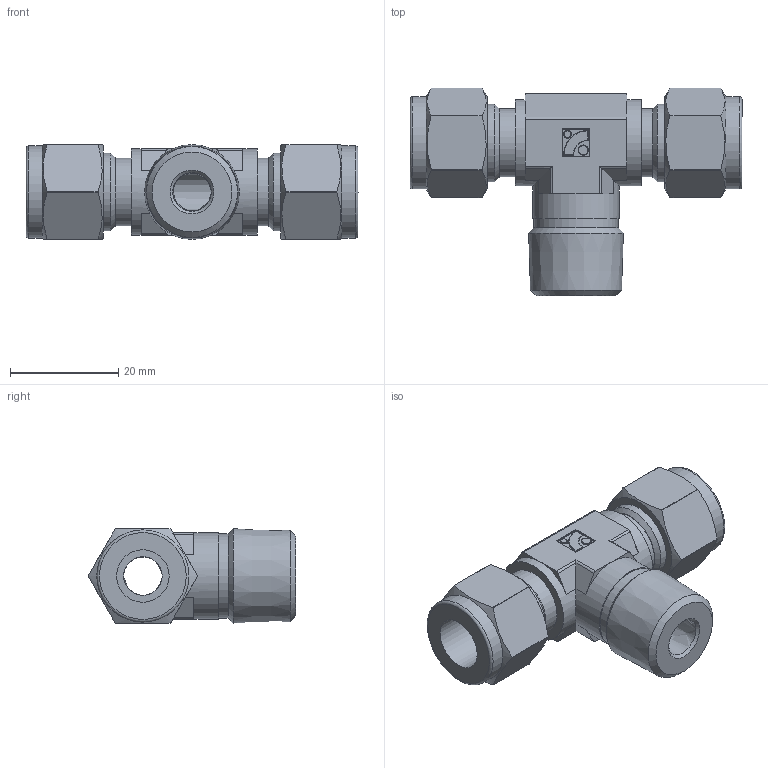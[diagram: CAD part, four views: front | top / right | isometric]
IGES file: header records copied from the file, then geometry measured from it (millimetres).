
Global section: file name: No Iges File Name specified; native system: Autodesk Inventor 2012; preprocessor: AutoDesk Inventor Iges Exporter R2012; author: 硅己绕,, ; organization: 11; date: 20150815.155201; units: millimetre
Bounding box: 61.22 x 38.28 x 17.5 mm (x, y, z)
Volume: 13501.9 mm3; surface area: 7391.6 mm2
Topology: 1 solids, 1 shells, 133 faces, 307 edges, 189 vertices
Faces by surface type: plane 60, cylinder 42, revolution 16, cone 9, torus 6
Full cylindrical faces by diameter (mm): 1.35 x1, 1.8 x1, 12.5 x2, 14.28 x2, 15.5 x1, 15.88 x3, 17 x2
